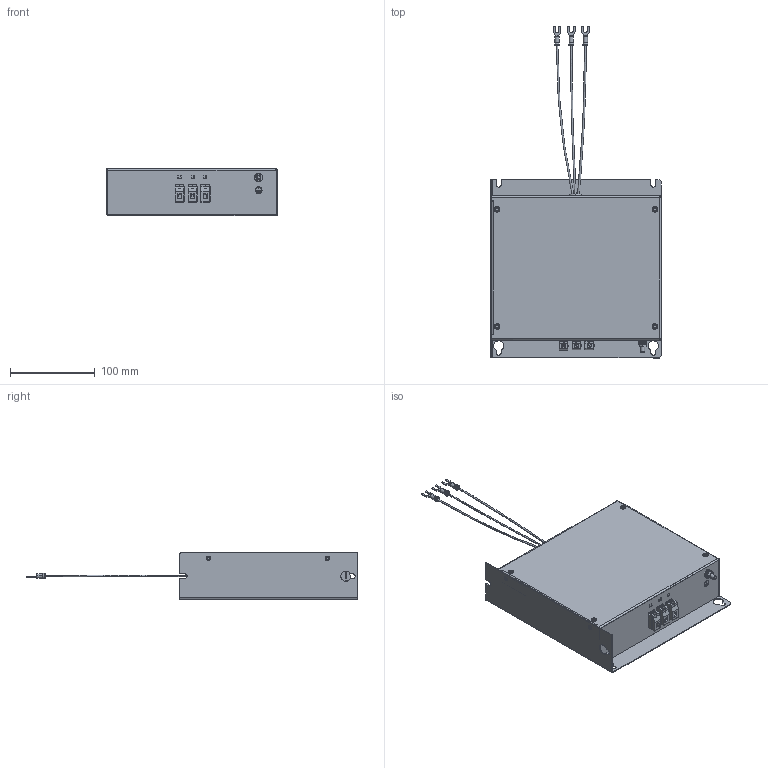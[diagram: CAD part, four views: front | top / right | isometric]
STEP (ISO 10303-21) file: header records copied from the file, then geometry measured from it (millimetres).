
FILE_DESCRIPTION (( 'STEP AP214' ), '1' );
FILE_NAME ('EFR-EFF-3G-22A.STEP', '2026-03-25T08:39:12', ( '' ), ( '' ), 'SwSTEP 2.0', 'SolidWorks 2025', '' );
FILE_SCHEMA (( 'AUTOMOTIVE_DESIGN' ));
Length unit declared in the file: millimetre
Products named in the file (16): MPT410; Stud M5; gromet 8 mm; 1000-510_1; IFI 505 - 42, FHSBMBR; 1000-510.Harness1_1; BS 4464 - 5.35; 1; #8 Terminal Spade 16 - 14 AWG; 3G R2.0(2); 1000-510L; ISO 7045 - M5 x 16 - 4.8 - Z; ISO 7091 - ST 5 - 100 HV; EFR-EFF-3G-22A; ISO 4036 - M5; 1000-510.Harness1
Assembly tree (27 placements, depth 4):
  EFR-EFF-3G-22A
    3G R2.0(2)
      Stud M5
        ISO 7045 - M5 x 16 - 4.8 - Z
        ISO 4036 - M5  x2
        ISO 7091 - ST 5 - 100 HV  x2
        BS 4464 - 5.35
      1000-510.Harness1
        1000-510.Harness1_1
      1000-510_1
      1000-510L
      1  x4
      gromet 8 mm
      #8 Terminal Spade 16 - 14 AWG  x3
      MPT410  x3
      IFI 505 - 42, FHSBMBR  x4
Bounding box: 201.42 x 391 x 55.46 mm (x, y, z)
Volume: 129461.7 mm3; surface area: 255206.6 mm2
Topology: 26 solids, 57 shells, 1787 faces, 4632 edges, 2999 vertices
Faces by surface type: plane 1321, cylinder 263, cone 100, bspline 73, torus 28, sphere 2
Full cylindrical faces by diameter (mm): 4.8 x4
Entity records: 24720 total; most frequent: CARTESIAN_POINT 6604, ORIENTED_EDGE 3838, DIRECTION 3299, EDGE_CURVE 1925, VERTEX_POINT 1244, LINE 1175, VECTOR 1175, AXIS2_PLACEMENT_3D 1062
